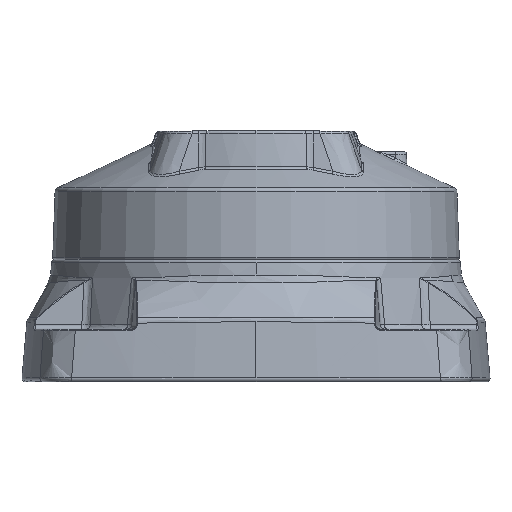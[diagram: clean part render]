
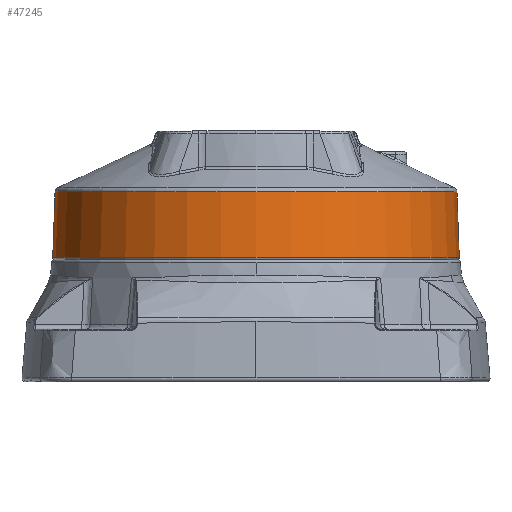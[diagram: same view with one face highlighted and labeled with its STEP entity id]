
A CAD part, front view. The second image highlights one B-rep face of the part: STEP entity #47245.
In plain terms, the highlighted conical face has half-angle 2 degrees and reference radius 84 mm.
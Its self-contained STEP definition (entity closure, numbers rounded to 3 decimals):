
#392 = ORIENTED_EDGE ( 'NONE', *, *, #33796, .F. ) ;
#1989 = CARTESIAN_POINT ( 'NONE',  ( 84.043, 0., 78.574 ) ) ;
#3094 = VERTEX_POINT ( 'NONE', #5720 ) ;
#4219 = CARTESIAN_POINT ( 'NONE',  ( 84., 0., 79.798 ) ) ;
#5720 = CARTESIAN_POINT ( 'NONE',  ( -84.043, 0., 78.574 ) ) ;
#5831 = DIRECTION ( 'NONE',  ( 0., 0., 1. ) ) ;
#6846 = VERTEX_POINT ( 'NONE', #1989 ) ;
#11381 = CARTESIAN_POINT ( 'NONE',  ( 0., 0., 79.798 ) ) ;
#13106 = AXIS2_PLACEMENT_3D ( 'NONE', #47838, #5831, #52611 ) ;
#15808 = ORIENTED_EDGE ( 'NONE', *, *, #30679, .T. ) ;
#18566 = ORIENTED_EDGE ( 'NONE', *, *, #30985, .T. ) ;
#19929 = DIRECTION ( 'NONE',  ( 1., 0., 0. ) ) ;
#20411 = ORIENTED_EDGE ( 'NONE', *, *, #60428, .T. ) ;
#24138 = AXIS2_PLACEMENT_3D ( 'NONE', #11381, #44626, #19929 ) ;
#25016 = AXIS2_PLACEMENT_3D ( 'NONE', #28225, #28020, #51848 ) ;
#26077 = EDGE_LOOP ( 'NONE', ( #15808, #20411, #18566, #392 ) ) ;
#28020 = DIRECTION ( 'NONE',  ( 0., 0., -1. ) ) ;
#28225 = CARTESIAN_POINT ( 'NONE',  ( 0., 0., 78.574 ) ) ;
#30017 = FACE_OUTER_BOUND ( 'NONE', #26077, .T. ) ;
#30652 = CARTESIAN_POINT ( 'NONE',  ( -84., 0., 79.798 ) ) ;
#30679 = EDGE_CURVE ( 'NONE', #6846, #3094, #39286, .T. ) ;
#30985 = EDGE_CURVE ( 'NONE', #49318, #40254, #38516, .T. ) ;
#33796 = EDGE_CURVE ( 'NONE', #6846, #40254, #42805, .T. ) ;
#35402 = DIRECTION ( 'NONE',  ( -0.035, 0., -0.999 ) ) ;
#36102 = VECTOR ( 'NONE', #35402, 1000. ) ;
#37083 = DIRECTION ( 'NONE',  ( 0.035, 0., -0.999 ) ) ;
#38516 = CIRCLE ( 'NONE', #13106, 84.999 ) ;
#39286 = CIRCLE ( 'NONE', #25016, 84.043 ) ;
#40254 = VERTEX_POINT ( 'NONE', #40338 ) ;
#40338 = CARTESIAN_POINT ( 'NONE',  ( 84.999, 0., 51.204 ) ) ;
#42805 = LINE ( 'NONE', #4219, #49415 ) ;
#44626 = DIRECTION ( 'NONE',  ( 0., 0., -1. ) ) ;
#45088 = CARTESIAN_POINT ( 'NONE',  ( -84.999, 0., 51.204 ) ) ;
#47245 = ADVANCED_FACE ( 'NONE', ( #30017 ), #49264, .T. ) ;
#47838 = CARTESIAN_POINT ( 'NONE',  ( 0., 0., 51.204 ) ) ;
#49264 = CONICAL_SURFACE ( 'NONE', #24138, 84., 0.035 ) ;
#49318 = VERTEX_POINT ( 'NONE', #45088 ) ;
#49415 = VECTOR ( 'NONE', #37083, 1000. ) ;
#51848 = DIRECTION ( 'NONE',  ( 1., 0., 0. ) ) ;
#52611 = DIRECTION ( 'NONE',  ( 1., 0., 0. ) ) ;
#60428 = EDGE_CURVE ( 'NONE', #3094, #49318, #61338, .T. ) ;
#61338 = LINE ( 'NONE', #30652, #36102 ) ;
